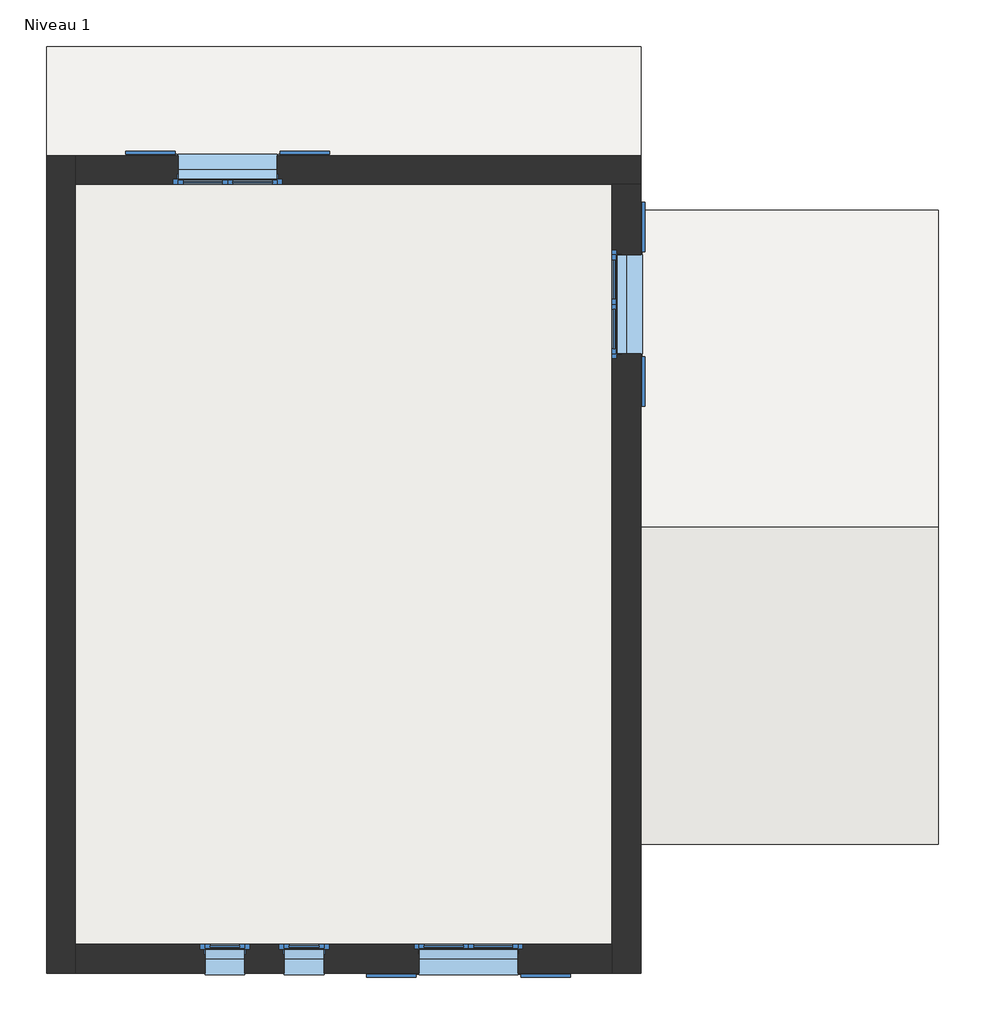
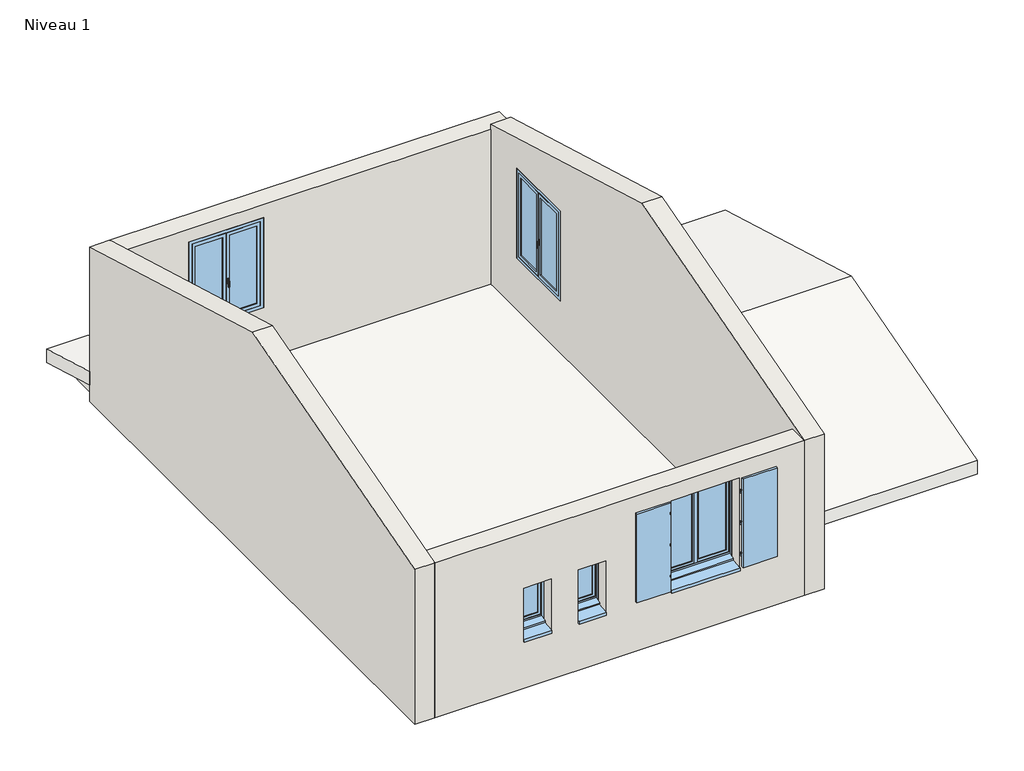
# One storey: 5 windows, 4 walls, 2 roofs, 1 slab.
"""IFC4 building model written with IfcOpenShell, lengths in millimetres."""

from ifc_helpers import new_model, si_unit, frame, origin, place, context, project, spatial, polyline, outline, extrude, faceted_brep, transform, mapped, element, save
from components import window_a55630fe, window_1ed28ddb

model = new_model("IFC4")

# Units and contexts
model_context = context("Model", 3, world=origin())
ifc_project = project(units=[si_unit("LENGTHUNIT", "METRE", prefix="MILLI")], contexts=[model_context])

# Site, building, storey
site = spatial("IfcSite", under=ifc_project)
building = spatial("IfcBuilding", under=site)
storey = spatial("IfcBuildingStorey", under=building, Name="Niveau 1", Elevation=2640.0)

# Roofs
placement = place(None, origin())
element("IfcRoof", 1, ObjectType="Toit - 200 mm", at=placement, inside=storey, context=model_context, shape_type="SweptSolid", body=[
    extrude(outline(polyline([(891.4173476, 3106.1307344), (1991.4173476, 2790.71081), (1991.4173476, 2582.6509228), (891.4173476, 2898.0708472), (891.4173476, 3106.1307344)])), frame((-8799.0916034, 0.0, 0.0), z_axis=(1.0, 0.0, 0.0), x_axis=(0.0, 1.0, 0.0)), (0.0, 0.0, 1.0), 6000.0),
])
element("IfcRoof", 2, ObjectType="Toit - 200 mm", at=placement, inside=storey, context=model_context, shape_type="SweptSolid", body=[
    extrude(outline(polyline([(-6058.5826524, 2790.71081), (-2858.5826524, 3708.2960444), (341.4173476, 2790.71081), (341.4173476, 2582.6509228), (-2858.5826524, 3500.2361573), (-6058.5826524, 2582.6509228), (-6058.5826524, 2790.71081)])), frame((-2799.0916034, 0.0, 0.0), z_axis=(1.0, 0.0, 0.0), x_axis=(0.0, 1.0, 0.0)), (0.0, 0.0, 1.0), 3000.0),
])

# Slab
element("IfcSlab", 3, ObjectType="Dalle en béton - 150 mm", at=placement, inside=storey, context=model_context, shape_type="SweptSolid", body=[
    extrude(outline(polyline([(-8589.0916034, -7148.5826524), (-8589.0916034, 1581.4173476), (-3009.0916034, 1581.4173476), (-3009.0916034, -7148.5826524), (-8589.0916034, -7148.5826524)])), frame((0.0, 0.0, 2490.0), z_axis=(0.0, 0.0, 1.0), x_axis=(1.0, 0.0, 0.0)), (0.0, 0.0, 1.0), 150.0),
])

# Walls
element("IfcWall", 4, ObjectType="Ext. Parpaing 20 + Isolant 8", at=placement, inside=storey, context=model_context, shape_type="Brep", body=[
    faceted_brep([(-8509.0916034, -7358.5826524, 2640.0), (-8509.0916034, -7068.5826524, 2640.0), (-8509.0916034, 601.4173476, 2640.0), (-8509.0916034, 891.4173476, 2640.0), (-8509.0916034, 891.4173476, 5040.0), (-8509.0916034, -3233.5826524, 6222.8247163), (-8509.0916034, -7358.5826524, 5040.0), (-8799.0916034, -7358.5826524, 2640.0), (-8799.0916034, -7358.5826524, 5040.0), (-8799.0916034, -3233.5826524, 6222.8247163), (-8799.0916034, 891.4173476, 5040.0), (-8799.0916034, 891.4173476, 2640.0)], [[[0, 1, 2, 3, 4, 5, 6]], [[7, 8, 9, 10, 11]], [[3, 2, 1, 0, 7, 11]], [[4, 3, 11, 10]], [[0, 6, 8, 7]], [[6, 5, 9, 8]], [[5, 4, 10, 9]]]),
])
element("IfcWall", 5, ObjectType="Ext. Parpaing 20 + Isolant 8", at=placement, inside=storey, context=model_context, shape_type="Brep", body=[
    faceted_brep([(-8509.0916034, 601.4173476, 2640.0), (-3089.0916034, 601.4173476, 2640.0), (-2799.0916034, 601.4173476, 2640.0), (-2799.0916034, 601.4173476, 5040.0), (-8509.0916034, 601.4173476, 5040.0), (-6419.0916034, 601.4173476, 3440.0), (-7519.0916034, 601.4173476, 3440.0), (-7519.0916034, 601.4173476, 4840.0), (-6419.0916034, 601.4173476, 4840.0), (-8509.0916034, 891.4173476, 2640.0), (-8509.0916034, 891.4173476, 5040.0), (-2799.0916034, 891.4173476, 5040.0), (-2799.0916034, 891.4173476, 2640.0), (-7469.0916034, 891.4173476, 4790.0), (-7469.0916034, 891.4173476, 3360.0), (-6469.0916034, 891.4173476, 3360.0), (-6469.0916034, 891.4173476, 4790.0), (-7469.0916034, 681.4173476, 3440.0), (-7469.0916034, 681.4173476, 3360.0), (-7469.0916034, 701.4173476, 4790.0), (-7469.0916034, 701.4173476, 3440.0), (-6469.0916034, 681.4173476, 3360.0), (-6469.0916034, 681.4173476, 3440.0), (-6469.0916034, 701.4173476, 3440.0), (-6469.0916034, 701.4173476, 4790.0), (-7479.0916034, 701.4173476, 3440.0), (-7479.0916034, 651.4173476, 3440.0), (-7519.0916034, 651.4173476, 3440.0), (-6419.0916034, 651.4173476, 3440.0), (-6459.0916034, 651.4173476, 3440.0), (-6459.0916034, 701.4173476, 3440.0), (-7519.0916034, 651.4173476, 4840.0), (-7479.0916034, 651.4173476, 4800.0), (-6459.0916034, 651.4173476, 4800.0), (-6419.0916034, 651.4173476, 4840.0), (-7479.0916034, 701.4173476, 4800.0), (-6459.0916034, 701.4173476, 4800.0)], [[[0, 1, 2, 3, 4], [5, 6, 7, 8]], [[9, 10, 11, 12], [13, 14, 15, 16]], [[2, 1, 0, 9, 12]], [[4, 3, 11, 10]], [[0, 4, 10, 9]], [[3, 2, 12, 11]], [[17, 18, 14, 13, 19, 20]], [[21, 22, 23, 24, 16, 15]], [[18, 21, 15, 14]], [[18, 17, 22, 21]], [[13, 16, 24, 19]], [[22, 17, 20, 25, 26, 27, 6, 5, 28, 29, 30, 23]], [[6, 27, 31, 7]], [[27, 26, 32, 33, 29, 28, 34, 31]], [[26, 25, 35, 32]], [[25, 20, 19, 24, 23, 30, 36, 35]], [[7, 31, 34, 8]], [[33, 32, 35, 36]], [[34, 28, 5, 8]], [[29, 33, 36, 30]]]),
])
element("IfcWall", 6, ObjectType="Ext. Parpaing 20 + Isolant 8", at=placement, inside=storey, context=model_context, shape_type="Brep", body=[
    faceted_brep([(-3089.0916034, 601.4173476, 2640.0), (-3089.0916034, -7068.5826524, 2640.0), (-3089.0916034, -7358.5826524, 2640.0), (-3089.0916034, -7358.5826524, 5040.0), (-3089.0916034, -3233.5826524, 6222.8247163), (-3089.0916034, 601.4173476, 5123.1561619), (-3089.0916034, -1158.5826524, 3440.0), (-3089.0916034, -58.5826524, 3440.0), (-3089.0916034, -58.5826524, 4840.0), (-3089.0916034, -1158.5826524, 4840.0), (-2799.0916034, 601.4173476, 2640.0), (-2799.0916034, 601.4173476, 5040.0), (-2799.0916034, 601.4173476, 5123.1561619), (-2799.0916034, -3233.5826524, 6222.8247163), (-2799.0916034, -7358.5826524, 5040.0), (-2799.0916034, -7358.5826524, 2640.0), (-2799.0916034, -108.5826524, 4790.0), (-2799.0916034, -108.5826524, 3360.0), (-2799.0916034, -1108.5826524, 3360.0), (-2799.0916034, -1108.5826524, 4790.0), (-3009.0916034, -108.5826524, 3440.0), (-3009.0916034, -108.5826524, 3360.0), (-2989.0916034, -108.5826524, 4790.0), (-2989.0916034, -108.5826524, 3440.0), (-3009.0916034, -1108.5826524, 3360.0), (-3009.0916034, -1108.5826524, 3440.0), (-2989.0916034, -1108.5826524, 3440.0), (-2989.0916034, -1108.5826524, 4790.0), (-2989.0916034, -98.5826524, 3440.0), (-3039.0916034, -98.5826524, 3440.0), (-3039.0916034, -58.5826524, 3440.0), (-3039.0916034, -1158.5826524, 3440.0), (-3039.0916034, -1118.5826524, 3440.0), (-2989.0916034, -1118.5826524, 3440.0), (-3039.0916034, -58.5826524, 4840.0), (-3039.0916034, -98.5826524, 4800.0), (-3039.0916034, -1118.5826524, 4800.0), (-3039.0916034, -1158.5826524, 4840.0), (-2989.0916034, -98.5826524, 4800.0), (-2989.0916034, -1118.5826524, 4800.0)], [[[0, 1, 2, 3, 4, 5], [6, 7, 8, 9]], [[10, 11, 12, 13, 14, 15], [16, 17, 18, 19]], [[2, 1, 0, 10, 15]], [[0, 5, 12, 11, 10]], [[3, 2, 15, 14]], [[20, 21, 17, 16, 22, 23]], [[24, 25, 26, 27, 19, 18]], [[21, 24, 18, 17]], [[21, 20, 25, 24]], [[16, 19, 27, 22]], [[25, 20, 23, 28, 29, 30, 7, 6, 31, 32, 33, 26]], [[7, 30, 34, 8]], [[30, 29, 35, 36, 32, 31, 37, 34]], [[29, 28, 38, 35]], [[28, 23, 22, 27, 26, 33, 39, 38]], [[8, 34, 37, 9]], [[36, 35, 38, 39]], [[37, 31, 6, 9]], [[32, 36, 39, 33]], [[5, 4, 13, 12]], [[4, 3, 14, 13]]]),
])
element("IfcWall", 7, ObjectType="Ext. Parpaing 20 + Isolant 8", at=placement, inside=storey, context=model_context, shape_type="Brep", body=[
    faceted_brep([(-3089.0916034, -7068.5826524, 2640.0), (-8509.0916034, -7068.5826524, 2640.0), (-8509.0916034, -7068.5826524, 5040.0), (-3089.0916034, -7068.5826524, 5040.0), (-5089.0916034, -7068.5826524, 3440.0), (-3989.0916034, -7068.5826524, 3440.0), (-3989.0916034, -7068.5826524, 4840.0), (-5089.0916034, -7068.5826524, 4840.0), (-6449.0916034, -7068.5826524, 3440.0), (-5949.0916034, -7068.5826524, 3440.0), (-5949.0916034, -7068.5826524, 4240.0), (-6449.0916034, -7068.5826524, 4240.0), (-7249.0916034, -7068.5826524, 3440.0), (-6749.0916034, -7068.5826524, 3440.0), (-6749.0916034, -7068.5826524, 4240.0), (-7249.0916034, -7068.5826524, 4240.0), (-3089.0916034, -7358.5826524, 2640.0), (-3089.0916034, -7358.5826524, 5040.0), (-8509.0916034, -7358.5826524, 5040.0), (-8509.0916034, -7358.5826524, 2640.0), (-4039.0916034, -7358.5826524, 4790.0), (-4039.0916034, -7358.5826524, 3360.0), (-5039.0916034, -7358.5826524, 3360.0), (-5039.0916034, -7358.5826524, 4790.0), (-5999.0916034, -7358.5826524, 4190.0), (-5999.0916034, -7358.5826524, 3360.0), (-6399.0916034, -7358.5826524, 3360.0), (-6399.0916034, -7358.5826524, 4190.0), (-6799.0916034, -7358.5826524, 4190.0), (-6799.0916034, -7358.5826524, 3360.0), (-7199.0916034, -7358.5826524, 3360.0), (-7199.0916034, -7358.5826524, 4190.0), (-4039.0916034, -7148.5826524, 3440.0), (-4039.0916034, -7148.5826524, 3360.0), (-4039.0916034, -7168.5826524, 4790.0), (-4039.0916034, -7168.5826524, 3440.0), (-5039.0916034, -7148.5826524, 3360.0), (-5039.0916034, -7148.5826524, 3440.0), (-5039.0916034, -7168.5826524, 3440.0), (-5039.0916034, -7168.5826524, 4790.0), (-4029.0916034, -7168.5826524, 3440.0), (-4029.0916034, -7118.5826524, 3440.0), (-3989.0916034, -7118.5826524, 3440.0), (-5089.0916034, -7118.5826524, 3440.0), (-5049.0916034, -7118.5826524, 3440.0), (-5049.0916034, -7168.5826524, 3440.0), (-3989.0916034, -7118.5826524, 4840.0), (-4029.0916034, -7118.5826524, 4800.0), (-5049.0916034, -7118.5826524, 4800.0), (-5089.0916034, -7118.5826524, 4840.0), (-4029.0916034, -7168.5826524, 4800.0), (-5049.0916034, -7168.5826524, 4800.0), (-5999.0916034, -7148.5826524, 3440.0), (-5999.0916034, -7148.5826524, 3360.0), (-5999.0916034, -7168.5826524, 4190.0), (-5999.0916034, -7168.5826524, 3440.0), (-6399.0916034, -7148.5826524, 3360.0), (-6399.0916034, -7148.5826524, 3440.0), (-6399.0916034, -7168.5826524, 3440.0), (-6399.0916034, -7168.5826524, 4190.0), (-5989.0916034, -7168.5826524, 3440.0), (-5989.0916034, -7118.5826524, 3440.0), (-5949.0916034, -7118.5826524, 3440.0), (-6449.0916034, -7118.5826524, 3440.0), (-6409.0916034, -7118.5826524, 3440.0), (-6409.0916034, -7168.5826524, 3440.0), (-5949.0916034, -7118.5826524, 4240.0), (-5989.0916034, -7118.5826524, 4200.0), (-6409.0916034, -7118.5826524, 4200.0), (-6449.0916034, -7118.5826524, 4240.0), (-5989.0916034, -7168.5826524, 4200.0), (-6409.0916034, -7168.5826524, 4200.0), (-6799.0916034, -7148.5826524, 3440.0), (-6799.0916034, -7148.5826524, 3360.0), (-6799.0916034, -7168.5826524, 4190.0), (-6799.0916034, -7168.5826524, 3440.0), (-7199.0916034, -7148.5826524, 3360.0), (-7199.0916034, -7148.5826524, 3440.0), (-7199.0916034, -7168.5826524, 3440.0), (-7199.0916034, -7168.5826524, 4190.0), (-6789.0916034, -7168.5826524, 3440.0), (-6789.0916034, -7118.5826524, 3440.0), (-6749.0916034, -7118.5826524, 3440.0), (-7249.0916034, -7118.5826524, 3440.0), (-7209.0916034, -7118.5826524, 3440.0), (-7209.0916034, -7168.5826524, 3440.0), (-6749.0916034, -7118.5826524, 4240.0), (-6789.0916034, -7118.5826524, 4200.0), (-7209.0916034, -7118.5826524, 4200.0), (-7249.0916034, -7118.5826524, 4240.0), (-6789.0916034, -7168.5826524, 4200.0), (-7209.0916034, -7168.5826524, 4200.0)], [[[0, 1, 2, 3], [4, 5, 6, 7], [8, 9, 10, 11], [12, 13, 14, 15]], [[16, 17, 18, 19], [20, 21, 22, 23], [24, 25, 26, 27], [28, 29, 30, 31]], [[1, 0, 16, 19]], [[3, 2, 18, 17]], [[2, 1, 19, 18]], [[0, 3, 17, 16]], [[32, 33, 21, 20, 34, 35]], [[36, 37, 38, 39, 23, 22]], [[33, 36, 22, 21]], [[33, 32, 37, 36]], [[20, 23, 39, 34]], [[37, 32, 35, 40, 41, 42, 5, 4, 43, 44, 45, 38]], [[5, 42, 46, 6]], [[42, 41, 47, 48, 44, 43, 49, 46]], [[41, 40, 50, 47]], [[40, 35, 34, 39, 38, 45, 51, 50]], [[6, 46, 49, 7]], [[48, 47, 50, 51]], [[49, 43, 4, 7]], [[44, 48, 51, 45]], [[52, 53, 25, 24, 54, 55]], [[56, 57, 58, 59, 27, 26]], [[53, 56, 26, 25]], [[53, 52, 57, 56]], [[24, 27, 59, 54]], [[57, 52, 55, 60, 61, 62, 9, 8, 63, 64, 65, 58]], [[9, 62, 66, 10]], [[62, 61, 67, 68, 64, 63, 69, 66]], [[61, 60, 70, 67]], [[60, 55, 54, 59, 58, 65, 71, 70]], [[10, 66, 69, 11]], [[68, 67, 70, 71]], [[69, 63, 8, 11]], [[64, 68, 71, 65]], [[72, 73, 29, 28, 74, 75]], [[76, 77, 78, 79, 31, 30]], [[73, 76, 30, 29]], [[73, 72, 77, 76]], [[28, 31, 79, 74]], [[77, 72, 75, 80, 81, 82, 13, 12, 83, 84, 85, 78]], [[13, 82, 86, 14]], [[82, 81, 87, 88, 84, 83, 89, 86]], [[81, 80, 90, 87]], [[80, 75, 74, 79, 78, 85, 91, 90]], [[14, 86, 89, 15]], [[88, 87, 90, 91]], [[89, 83, 12, 15]], [[84, 88, 91, 85]]]),
])

# Windows
window_shape = window_a55630fe(model_context)
element("IfcWindow", 8, ObjectType="2 Vantaux droits - Volets et petits bois : 1m x 1.35m - Appui Béton", at=placement, inside=storey, context=model_context, shape_type="MappedRepresentation", body=[
    mapped(window_shape, transform((-4539.0916034, -7213.5826524, 2640.0), x_axis=(-1.0, 0.0, 0.0), y_axis=(0.0, -1.0, 0.0), z_axis=(0.0, 0.0, 1.0))),
])
element("IfcWindow", 9, ObjectType="2 Vantaux droits - Volets et petits bois : 1m x 1.35m - Appui Béton", at=placement, inside=storey, context=model_context, shape_type="MappedRepresentation", body=[
    mapped(window_shape, transform((-2944.0916034, -608.5826524, 2640.0), x_axis=(0.0, -1.0, 0.0), y_axis=(1.0, 0.0, 0.0), z_axis=(0.0, 0.0, 1.0))),
])
element("IfcWindow", 10, ObjectType="2 Vantaux droits - Volets et petits bois : 1m x 1.35m - Appui Béton", at=placement, inside=storey, context=model_context, shape_type="MappedRepresentation", body=[
    mapped(window_shape, transform((-6969.0916034, 746.4173476, 2640.0), x_axis=(1.0, 0.0, 0.0), y_axis=(0.0, 1.0, 0.0), z_axis=(0.0, 0.0, 1.0))),
])
window_2_shape = window_1ed28ddb(model_context)
element("IfcWindow", 11, ObjectType="1 Vantail droit - Volet et petits bois : 0.40m x 0.75m - Appui Béton", at=placement, inside=storey, context=model_context, shape_type="MappedRepresentation", body=[
    mapped(window_2_shape, transform((-6199.0916034, -7213.5826524, 2640.0), x_axis=(-1.0, 0.0, 0.0), y_axis=(0.0, -1.0, 0.0), z_axis=(0.0, 0.0, 1.0))),
])
element("IfcWindow", 12, ObjectType="1 Vantail droit - Volet et petits bois : 0.40m x 0.75m - Appui Béton", at=placement, inside=storey, context=model_context, shape_type="MappedRepresentation", body=[
    mapped(window_2_shape, transform((-6999.0916034, -7213.5826524, 2640.0), x_axis=(-1.0, 0.0, 0.0), y_axis=(0.0, -1.0, 0.0), z_axis=(0.0, 0.0, 1.0))),
])

save(model, "model.ifc")
